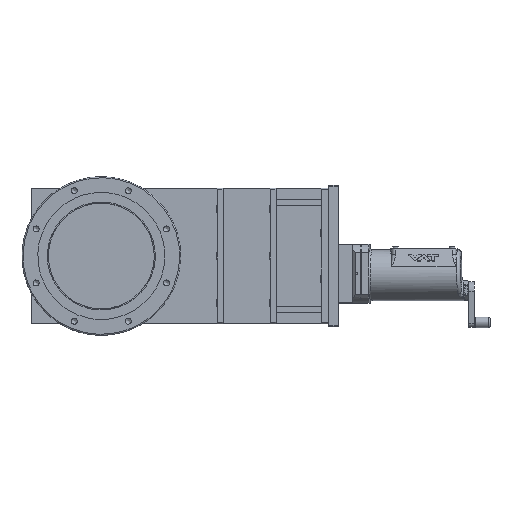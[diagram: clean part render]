
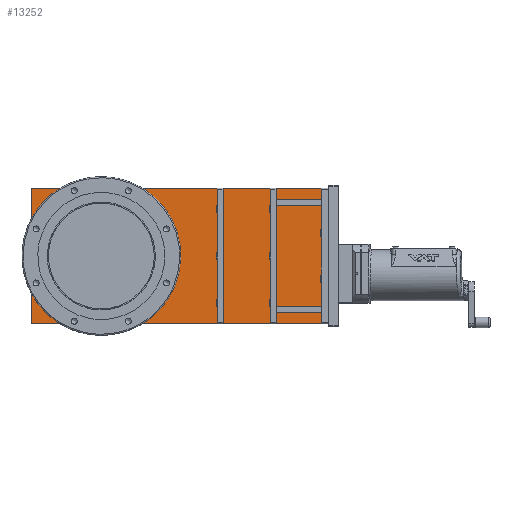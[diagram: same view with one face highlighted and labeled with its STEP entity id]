
A CAD part, top view. The second image highlights one B-rep face of the part: STEP entity #13252.
In plain terms, the highlighted planar face has unit normal (0, 0, 1).
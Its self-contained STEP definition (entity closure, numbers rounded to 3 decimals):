
#5279=LINE('',#41756,#7556);
#5281=LINE('',#41760,#7558);
#5283=LINE('',#41764,#7560);
#5285=LINE('',#41768,#7562);
#7556=VECTOR('',#34703,1.);
#7558=VECTOR('',#34707,1.);
#7560=VECTOR('',#34711,1.);
#7562=VECTOR('',#34715,1.);
#10786=PLANE('',#29879);
#13252=ADVANCED_FACE('',(#14260,#14261),#10786,.F.);
#14260=FACE_BOUND('',#15797,.T.);
#14261=FACE_BOUND('',#15798,.T.);
#15797=EDGE_LOOP('',(#20278));
#15798=EDGE_LOOP('',(#20279,#20280,#20281,#20282));
#20278=ORIENTED_EDGE('',*,*,#26978,.T.);
#20279=ORIENTED_EDGE('',*,*,#26971,.F.);
#20280=ORIENTED_EDGE('',*,*,#26969,.T.);
#20281=ORIENTED_EDGE('',*,*,#26975,.F.);
#20282=ORIENTED_EDGE('',*,*,#26973,.F.);
#24173=VERTEX_POINT('',#41755);
#24174=VERTEX_POINT('',#41757);
#24175=VERTEX_POINT('',#41761);
#24176=VERTEX_POINT('',#41765);
#24179=VERTEX_POINT('',#41776);
#26969=EDGE_CURVE('',#24174,#24173,#5279,.T.);
#26971=EDGE_CURVE('',#24174,#24175,#5281,.T.);
#26973=EDGE_CURVE('',#24175,#24176,#5283,.T.);
#26975=EDGE_CURVE('',#24176,#24173,#5285,.T.);
#26978=EDGE_CURVE('',#24179,#24179,#28385,.T.);
#28385=CIRCLE('',#29878,75.3);
#29878=AXIS2_PLACEMENT_3D('',#41775,#34724,#34725);
#29879=AXIS2_PLACEMENT_3D('',#41777,#34726,#34727);
#34703=DIRECTION('',(0.,1.,0.));
#34707=DIRECTION('',(-1.,0.,0.));
#34711=DIRECTION('',(0.,1.,0.));
#34715=DIRECTION('',(1.,0.,0.));
#34724=DIRECTION('',(0.,0.,-1.));
#34725=DIRECTION('',(0.,1.,0.));
#34726=DIRECTION('',(0.,0.,-1.));
#34727=DIRECTION('',(0.,1.,0.));
#41755=CARTESIAN_POINT('',(322.3,96.225,27.));
#41756=CARTESIAN_POINT('',(322.3,0.,27.));
#41757=CARTESIAN_POINT('',(322.3,-96.225,27.));
#41760=CARTESIAN_POINT('',(323.6,-96.225,27.));
#41761=CARTESIAN_POINT('',(-98.55,-96.225,27.));
#41764=CARTESIAN_POINT('',(-98.55,-96.225,27.));
#41765=CARTESIAN_POINT('',(-98.55,96.225,27.));
#41768=CARTESIAN_POINT('',(-98.55,96.225,27.));
#41775=CARTESIAN_POINT('',(0.,0.,27.));
#41776=CARTESIAN_POINT('',(0.,75.3,27.));
#41777=CARTESIAN_POINT('',(0.,0.,27.));
